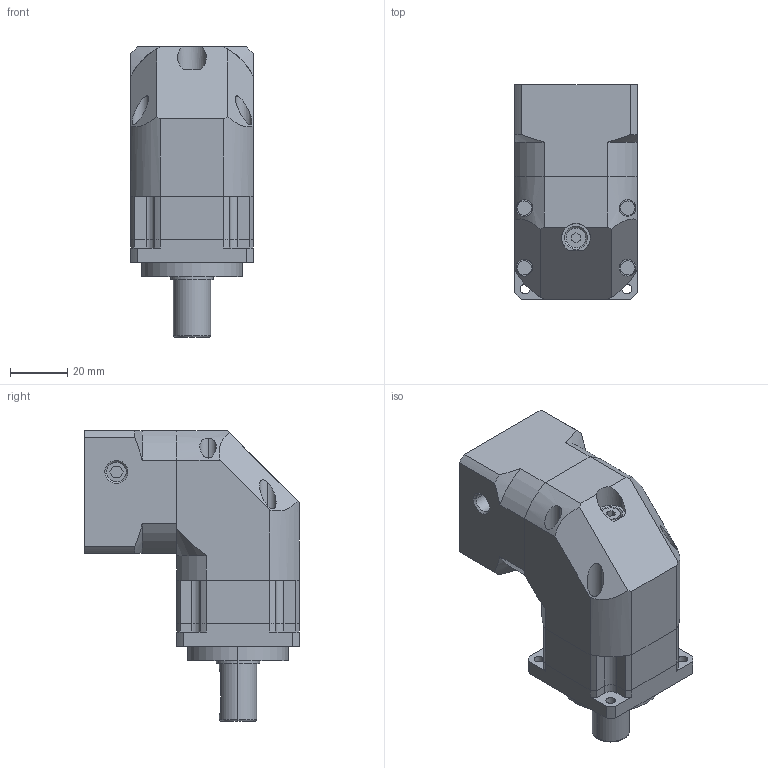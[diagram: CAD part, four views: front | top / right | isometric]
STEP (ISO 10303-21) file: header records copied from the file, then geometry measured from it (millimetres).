
FILE_DESCRIPTION (( 'STEP AP214' ), '1' );
FILE_NAME ('RPB42-L1-(A)-S2-P2-(8-25-30-M3-45).STEP', '2021-09-28T05:12:13', ( 'Admin' ), ( '' ), 'SwSTEP 2.0', 'SolidWorks 2018', '' );
FILE_SCHEMA (( 'AUTOMOTIVE_DESIGN' ));
Length unit declared in the file: millimetre
Products named in the file (5): PFR-042-怀堤傷-13-26-35-3.4-50_1; PFR-042-蛌褒眊极_1; RPB42-L1-(A)-S2-P2-(8-25-30-M3-45); PFR-042-输入法兰-8-25-30-M3-45; PFR-042-L1-单级齿圈_1
Assembly tree (4 placements, depth 2):
  RPB42-L1-(A)-S2-P2-(8-25-30-M3-45)
    PFR-042-怀堤傷-13-26-35-3.4-50_1
    PFR-042-L1-单级齿圈_1
    PFR-042-蛌褒眊极_1
    PFR-042-输入法兰-8-25-30-M3-45
Bounding box: 42.6 x 74.6 x 101 mm (x, y, z)
Volume: 132735 mm3; surface area: 42377.8 mm2
Topology: 4 solids, 4 shells, 368 faces, 895 edges, 578 vertices
Faces by surface type: cylinder 166, plane 159, cone 41, bspline 2
Entity records: 11409 total; most frequent: CARTESIAN_POINT 2371, DIRECTION 1927, ORIENTED_EDGE 1770, EDGE_CURVE 885, AXIS2_PLACEMENT_3D 720, VERTEX_POINT 578, LINE 487, VECTOR 487
